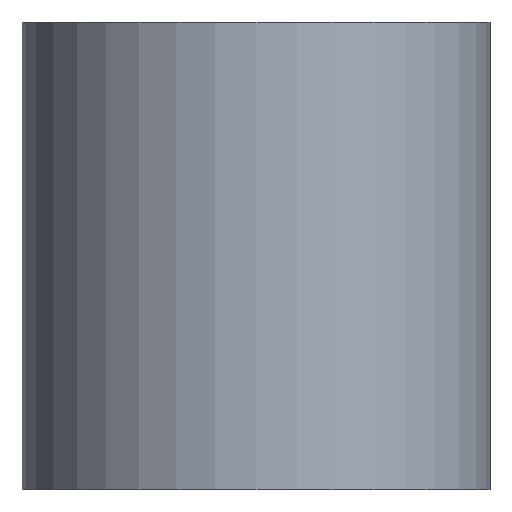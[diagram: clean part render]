
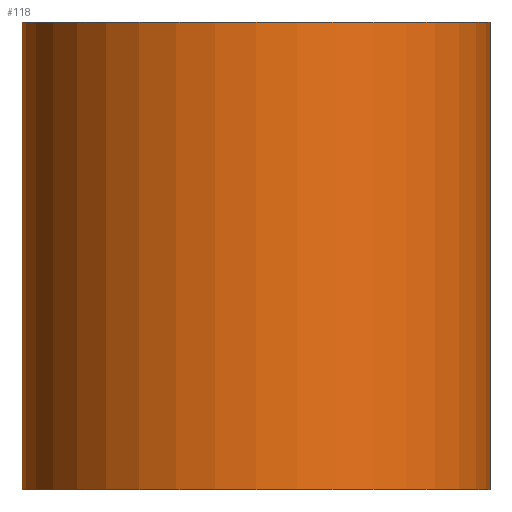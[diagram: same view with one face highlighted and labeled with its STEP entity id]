
A CAD part, front view. The second image highlights one B-rep face of the part: STEP entity #118.
In plain terms, the highlighted cylindrical face has radius 25 mm (diameter 50 mm), a partial arc.
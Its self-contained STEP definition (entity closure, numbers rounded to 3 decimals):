
#100=CYLINDRICAL_SURFACE('',#199,25.);
#104=FACE_OUTER_BOUND('',#132,.T.);
#107=LINE('',#257,#111);
#108=LINE('',#258,#112);
#111=VECTOR('',#228,1.);
#112=VECTOR('',#229,1.);
#118=ADVANCED_FACE('',(#104),#100,.T.);
#132=EDGE_LOOP('',(#153,#154,#155,#156));
#153=ORIENTED_EDGE('',*,*,#175,.F.);
#154=ORIENTED_EDGE('',*,*,#174,.T.);
#155=ORIENTED_EDGE('',*,*,#176,.T.);
#156=ORIENTED_EDGE('',*,*,#165,.F.);
#157=VERTEX_POINT('',#236);
#158=VERTEX_POINT('',#237);
#163=VERTEX_POINT('',#253);
#164=VERTEX_POINT('',#254);
#165=EDGE_CURVE('',#157,#158,#177,.T.);
#174=EDGE_CURVE('',#164,#163,#184,.T.);
#175=EDGE_CURVE('',#164,#157,#107,.T.);
#176=EDGE_CURVE('',#163,#158,#108,.T.);
#177=CIRCLE('',#186,25.);
#184=CIRCLE('',#196,25.);
#186=AXIS2_PLACEMENT_3D('',#235,#202,#203);
#196=AXIS2_PLACEMENT_3D('',#255,#224,#225);
#199=AXIS2_PLACEMENT_3D('',#260,#232,#233);
#202=DIRECTION('',(0.,0.,1.));
#203=DIRECTION('',(0.,1.,0.));
#224=DIRECTION('',(0.,0.,1.));
#225=DIRECTION('',(0.,1.,0.));
#228=DIRECTION('',(0.,0.,1.));
#229=DIRECTION('',(0.,0.,1.));
#232=DIRECTION('',(0.,0.,1.));
#233=DIRECTION('',(0.,-1.,0.));
#235=CARTESIAN_POINT('',(0.,0.,50.));
#236=CARTESIAN_POINT('',(-25.,0.,50.));
#237=CARTESIAN_POINT('',(25.,0.,50.));
#253=CARTESIAN_POINT('',(25.,0.,0.));
#254=CARTESIAN_POINT('',(-25.,0.,0.));
#255=CARTESIAN_POINT('',(0.,0.,0.));
#257=CARTESIAN_POINT('',(-25.,0.,50.));
#258=CARTESIAN_POINT('',(25.,0.,50.));
#260=CARTESIAN_POINT('',(0.,0.,0.));
